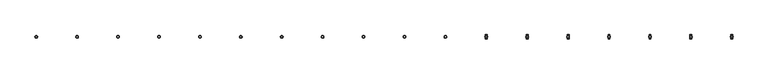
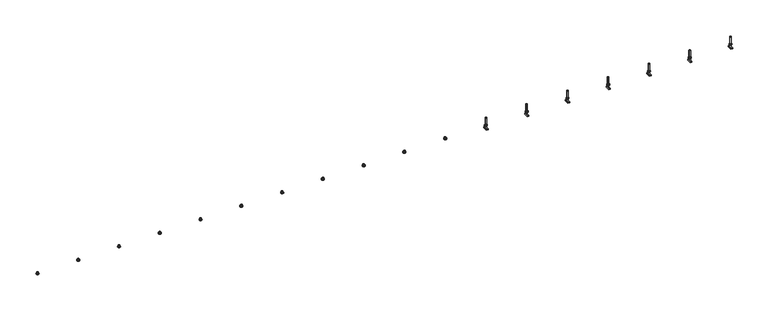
"""IFC4 building model written with IfcOpenShell, lengths in millimetres: fastener geometry, JTA-W JORDAHL® AnchorChannels : JTA-W L=6000 mm."""

from ifc_helpers import new_model, si_unit, point, frame, frame_2d, origin, place, context, project, spatial, polyline, circle_curve, trimmed, segment, composite_curve, outline, extrude, source, transform, mapped, element, save
from ifc_brep_helpers import plane_surface, cylinder_surface, advanced_brep


def fastener_6a5caa7f(model_context):
    return source(origin(), model_context, "Body", "SolidModel", [
        extrude(outline(polyline([(5617.1052632, 9.2376043), (5625.1052632, 4.6188022), (5625.1052632, -4.6188022), (5617.1052632, -9.2376043), (5609.1052632, -4.6188022), (5609.1052632, 4.6188022), (5617.1052632, 9.2376043)]), holes=[composite_curve([segment(trimmed(circle_curve(frame_2d((5617.1052632, 0.0)), 5.0), [point((5612.1052632, 0.0))], [point((5622.1052632, 0.0))], True, "CARTESIAN"), True, "CONTINUOUS"), segment(trimmed(circle_curve(frame_2d((5617.1052632, 0.0)), 5.0), [point((5622.1052632, 0.0))], [point((5612.1052632, 0.0))], True, "CARTESIAN"), True, "CONTINUOUS")], self_intersect=False)]), frame((0.0, 0.0, 17.0), z_axis=(0.0, 0.0, 1.0), x_axis=(1.0, 0.0, 0.0)), (0.0, 0.0, 1.0), 8.4),
        extrude(outline(composite_curve([segment(trimmed(circle_curve(frame_2d((5617.1052632, 0.0)), 10.0), [point((5607.1052632, 0.0))], [point((5627.1052632, 0.0))], False, "CARTESIAN"), True, "CONTINUOUS"), segment(trimmed(circle_curve(frame_2d((5617.1052632, 0.0)), 10.0), [point((5627.1052632, 0.0))], [point((5607.1052632, 0.0))], False, "CARTESIAN"), True, "CONTINUOUS")], self_intersect=False), holes=[composite_curve([segment(trimmed(circle_curve(frame_2d((5617.1052632, 0.0)), 5.25), [point((5611.8552632, 0.0))], [point((5622.3552632, 0.0))], True, "CARTESIAN"), True, "CONTINUOUS"), segment(trimmed(circle_curve(frame_2d((5617.1052632, 0.0)), 5.25), [point((5622.3552632, 0.0))], [point((5611.8552632, 0.0))], True, "CARTESIAN"), True, "CONTINUOUS")], self_intersect=False)]), frame((0.0, 0.0, 15.0), z_axis=(0.0, 0.0, 1.0), x_axis=(1.0, 0.0, 0.0)), (0.0, 0.0, 1.0), 2.0),
        extrude(outline(polyline([(5309.2105263, 9.2376043), (5317.2105263, 4.6188022), (5317.2105263, -4.6188022), (5309.2105263, -9.2376043), (5301.2105263, -4.6188022), (5301.2105263, 4.6188022), (5309.2105263, 9.2376043)]), holes=[composite_curve([segment(trimmed(circle_curve(frame_2d((5309.2105263, 0.0)), 5.0), [point((5304.2105263, 0.0))], [point((5314.2105263, 0.0))], True, "CARTESIAN"), True, "CONTINUOUS"), segment(trimmed(circle_curve(frame_2d((5309.2105263, 0.0)), 5.0), [point((5314.2105263, 0.0))], [point((5304.2105263, 0.0))], True, "CARTESIAN"), True, "CONTINUOUS")], self_intersect=False)]), frame((0.0, 0.0, 17.0), z_axis=(0.0, 0.0, 1.0), x_axis=(1.0, 0.0, 0.0)), (0.0, 0.0, 1.0), 8.4),
        extrude(outline(composite_curve([segment(trimmed(circle_curve(frame_2d((5309.2105263, 0.0)), 10.0), [point((5299.2105263, 0.0))], [point((5319.2105263, 0.0))], False, "CARTESIAN"), True, "CONTINUOUS"), segment(trimmed(circle_curve(frame_2d((5309.2105263, 0.0)), 10.0), [point((5319.2105263, 0.0))], [point((5299.2105263, 0.0))], False, "CARTESIAN"), True, "CONTINUOUS")], self_intersect=False), holes=[composite_curve([segment(trimmed(circle_curve(frame_2d((5309.2105263, 0.0)), 5.25), [point((5303.9605263, 0.0))], [point((5314.4605263, 0.0))], True, "CARTESIAN"), True, "CONTINUOUS"), segment(trimmed(circle_curve(frame_2d((5309.2105263, 0.0)), 5.25), [point((5314.4605263, 0.0))], [point((5303.9605263, 0.0))], True, "CARTESIAN"), True, "CONTINUOUS")], self_intersect=False)]), frame((0.0, 0.0, 15.0), z_axis=(0.0, 0.0, 1.0), x_axis=(1.0, 0.0, 0.0)), (0.0, 0.0, 1.0), 2.0),
        extrude(outline(polyline([(5001.3157895, 9.2376043), (5009.3157895, 4.6188022), (5009.3157895, -4.6188022), (5001.3157895, -9.2376043), (4993.3157895, -4.6188022), (4993.3157895, 4.6188022), (5001.3157895, 9.2376043)]), holes=[composite_curve([segment(trimmed(circle_curve(frame_2d((5001.3157895, 0.0)), 5.0), [point((4996.3157895, 0.0))], [point((5006.3157895, 0.0))], True, "CARTESIAN"), True, "CONTINUOUS"), segment(trimmed(circle_curve(frame_2d((5001.3157895, 0.0)), 5.0), [point((5006.3157895, 0.0))], [point((4996.3157895, 0.0))], True, "CARTESIAN"), True, "CONTINUOUS")], self_intersect=False)]), frame((0.0, 0.0, 17.0), z_axis=(0.0, 0.0, 1.0), x_axis=(1.0, 0.0, 0.0)), (0.0, 0.0, 1.0), 8.4),
        extrude(outline(composite_curve([segment(trimmed(circle_curve(frame_2d((5001.3157895, 0.0)), 10.0), [point((4991.3157895, 0.0))], [point((5011.3157895, 0.0))], False, "CARTESIAN"), True, "CONTINUOUS"), segment(trimmed(circle_curve(frame_2d((5001.3157895, 0.0)), 10.0), [point((5011.3157895, 0.0))], [point((4991.3157895, 0.0))], False, "CARTESIAN"), True, "CONTINUOUS")], self_intersect=False), holes=[composite_curve([segment(trimmed(circle_curve(frame_2d((5001.3157895, 0.0)), 5.25), [point((4996.0657895, 0.0))], [point((5006.5657895, 0.0))], True, "CARTESIAN"), True, "CONTINUOUS"), segment(trimmed(circle_curve(frame_2d((5001.3157895, 0.0)), 5.25), [point((5006.5657895, 0.0))], [point((4996.0657895, 0.0))], True, "CARTESIAN"), True, "CONTINUOUS")], self_intersect=False)]), frame((0.0, 0.0, 15.0), z_axis=(0.0, 0.0, 1.0), x_axis=(1.0, 0.0, 0.0)), (0.0, 0.0, 1.0), 2.0),
        extrude(outline(polyline([(4693.4210526, 9.2376043), (4701.4210526, 4.6188022), (4701.4210526, -4.6188022), (4693.4210526, -9.2376043), (4685.4210526, -4.6188022), (4685.4210526, 4.6188022), (4693.4210526, 9.2376043)]), holes=[composite_curve([segment(trimmed(circle_curve(frame_2d((4693.4210526, 0.0)), 5.0), [point((4688.4210526, 0.0))], [point((4698.4210526, 0.0))], True, "CARTESIAN"), True, "CONTINUOUS"), segment(trimmed(circle_curve(frame_2d((4693.4210526, 0.0)), 5.0), [point((4698.4210526, 0.0))], [point((4688.4210526, 0.0))], True, "CARTESIAN"), True, "CONTINUOUS")], self_intersect=False)]), frame((0.0, 0.0, 17.0), z_axis=(0.0, 0.0, 1.0), x_axis=(1.0, 0.0, 0.0)), (0.0, 0.0, 1.0), 8.4),
        extrude(outline(composite_curve([segment(trimmed(circle_curve(frame_2d((4693.4210526, 0.0)), 10.0), [point((4683.4210526, 0.0))], [point((4703.4210526, 0.0))], False, "CARTESIAN"), True, "CONTINUOUS"), segment(trimmed(circle_curve(frame_2d((4693.4210526, 0.0)), 10.0), [point((4703.4210526, 0.0))], [point((4683.4210526, 0.0))], False, "CARTESIAN"), True, "CONTINUOUS")], self_intersect=False), holes=[composite_curve([segment(trimmed(circle_curve(frame_2d((4693.4210526, 0.0)), 5.25), [point((4688.1710526, 0.0))], [point((4698.6710526, 0.0))], True, "CARTESIAN"), True, "CONTINUOUS"), segment(trimmed(circle_curve(frame_2d((4693.4210526, 0.0)), 5.25), [point((4698.6710526, 0.0))], [point((4688.1710526, 0.0))], True, "CARTESIAN"), True, "CONTINUOUS")], self_intersect=False)]), frame((0.0, 0.0, 15.0), z_axis=(0.0, 0.0, 1.0), x_axis=(1.0, 0.0, 0.0)), (0.0, 0.0, 1.0), 2.0),
        extrude(outline(polyline([(4385.5263158, 9.2376043), (4393.5263158, 4.6188022), (4393.5263158, -4.6188022), (4385.5263158, -9.2376043), (4377.5263158, -4.6188022), (4377.5263158, 4.6188022), (4385.5263158, 9.2376043)]), holes=[composite_curve([segment(trimmed(circle_curve(frame_2d((4385.5263158, 0.0)), 5.0), [point((4380.5263158, 0.0))], [point((4390.5263158, 0.0))], True, "CARTESIAN"), True, "CONTINUOUS"), segment(trimmed(circle_curve(frame_2d((4385.5263158, 0.0)), 5.0), [point((4390.5263158, 0.0))], [point((4380.5263158, 0.0))], True, "CARTESIAN"), True, "CONTINUOUS")], self_intersect=False)]), frame((0.0, 0.0, 17.0), z_axis=(0.0, 0.0, 1.0), x_axis=(1.0, 0.0, 0.0)), (0.0, 0.0, 1.0), 8.4),
        extrude(outline(composite_curve([segment(trimmed(circle_curve(frame_2d((4385.5263158, 0.0)), 10.0), [point((4375.5263158, 0.0))], [point((4395.5263158, 0.0))], False, "CARTESIAN"), True, "CONTINUOUS"), segment(trimmed(circle_curve(frame_2d((4385.5263158, 0.0)), 10.0), [point((4395.5263158, 0.0))], [point((4375.5263158, 0.0))], False, "CARTESIAN"), True, "CONTINUOUS")], self_intersect=False), holes=[composite_curve([segment(trimmed(circle_curve(frame_2d((4385.5263158, 0.0)), 5.25), [point((4380.2763158, 0.0))], [point((4390.7763158, 0.0))], True, "CARTESIAN"), True, "CONTINUOUS"), segment(trimmed(circle_curve(frame_2d((4385.5263158, 0.0)), 5.25), [point((4390.7763158, 0.0))], [point((4380.2763158, 0.0))], True, "CARTESIAN"), True, "CONTINUOUS")], self_intersect=False)]), frame((0.0, 0.0, 15.0), z_axis=(0.0, 0.0, 1.0), x_axis=(1.0, 0.0, 0.0)), (0.0, 0.0, 1.0), 2.0),
        extrude(outline(polyline([(4077.6315789, 9.2376043), (4085.6315789, 4.6188022), (4085.6315789, -4.6188022), (4077.6315789, -9.2376043), (4069.6315789, -4.6188022), (4069.6315789, 4.6188022), (4077.6315789, 9.2376043)]), holes=[composite_curve([segment(trimmed(circle_curve(frame_2d((4077.6315789, 0.0)), 5.0), [point((4072.6315789, 0.0))], [point((4082.6315789, 0.0))], True, "CARTESIAN"), True, "CONTINUOUS"), segment(trimmed(circle_curve(frame_2d((4077.6315789, 0.0)), 5.0), [point((4082.6315789, 0.0))], [point((4072.6315789, 0.0))], True, "CARTESIAN"), True, "CONTINUOUS")], self_intersect=False)]), frame((0.0, 0.0, 17.0), z_axis=(0.0, 0.0, 1.0), x_axis=(1.0, 0.0, 0.0)), (0.0, 0.0, 1.0), 8.4),
        extrude(outline(composite_curve([segment(trimmed(circle_curve(frame_2d((4077.6315789, 0.0)), 10.0), [point((4067.6315789, 0.0))], [point((4087.6315789, 0.0))], False, "CARTESIAN"), True, "CONTINUOUS"), segment(trimmed(circle_curve(frame_2d((4077.6315789, 0.0)), 10.0), [point((4087.6315789, 0.0))], [point((4067.6315789, 0.0))], False, "CARTESIAN"), True, "CONTINUOUS")], self_intersect=False), holes=[composite_curve([segment(trimmed(circle_curve(frame_2d((4077.6315789, 0.0)), 5.25), [point((4072.3815789, 0.0))], [point((4082.8815789, 0.0))], True, "CARTESIAN"), True, "CONTINUOUS"), segment(trimmed(circle_curve(frame_2d((4077.6315789, 0.0)), 5.25), [point((4082.8815789, 0.0))], [point((4072.3815789, 0.0))], True, "CARTESIAN"), True, "CONTINUOUS")], self_intersect=False)]), frame((0.0, 0.0, 15.0), z_axis=(0.0, 0.0, 1.0), x_axis=(1.0, 0.0, 0.0)), (0.0, 0.0, 1.0), 2.0),
        extrude(outline(polyline([(3769.7368421, 9.2376043), (3777.7368421, 4.6188022), (3777.7368421, -4.6188022), (3769.7368421, -9.2376043), (3761.7368421, -4.6188022), (3761.7368421, 4.6188022), (3769.7368421, 9.2376043)]), holes=[composite_curve([segment(trimmed(circle_curve(frame_2d((3769.7368421, 0.0)), 5.0), [point((3764.7368421, 0.0))], [point((3774.7368421, 0.0))], True, "CARTESIAN"), True, "CONTINUOUS"), segment(trimmed(circle_curve(frame_2d((3769.7368421, 0.0)), 5.0), [point((3774.7368421, 0.0))], [point((3764.7368421, 0.0))], True, "CARTESIAN"), True, "CONTINUOUS")], self_intersect=False)]), frame((0.0, 0.0, 17.0), z_axis=(0.0, 0.0, 1.0), x_axis=(1.0, 0.0, 0.0)), (0.0, 0.0, 1.0), 8.4),
        extrude(outline(composite_curve([segment(trimmed(circle_curve(frame_2d((3769.7368421, 0.0)), 10.0), [point((3759.7368421, 0.0))], [point((3779.7368421, 0.0))], False, "CARTESIAN"), True, "CONTINUOUS"), segment(trimmed(circle_curve(frame_2d((3769.7368421, 0.0)), 10.0), [point((3779.7368421, 0.0))], [point((3759.7368421, 0.0))], False, "CARTESIAN"), True, "CONTINUOUS")], self_intersect=False), holes=[composite_curve([segment(trimmed(circle_curve(frame_2d((3769.7368421, 0.0)), 5.25), [point((3764.4868421, 0.0))], [point((3774.9868421, 0.0))], True, "CARTESIAN"), True, "CONTINUOUS"), segment(trimmed(circle_curve(frame_2d((3769.7368421, 0.0)), 5.25), [point((3774.9868421, 0.0))], [point((3764.4868421, 0.0))], True, "CARTESIAN"), True, "CONTINUOUS")], self_intersect=False)]), frame((0.0, 0.0, 15.0), z_axis=(0.0, 0.0, 1.0), x_axis=(1.0, 0.0, 0.0)), (0.0, 0.0, 1.0), 2.0),
        extrude(outline(polyline([(3461.8421053, 9.2376043), (3469.8421053, 4.6188022), (3469.8421053, -4.6188022), (3461.8421053, -9.2376043), (3453.8421053, -4.6188022), (3453.8421053, 4.6188022), (3461.8421053, 9.2376043)]), holes=[composite_curve([segment(trimmed(circle_curve(frame_2d((3461.8421053, 0.0)), 5.0), [point((3456.8421053, 0.0))], [point((3466.8421053, 0.0))], True, "CARTESIAN"), True, "CONTINUOUS"), segment(trimmed(circle_curve(frame_2d((3461.8421053, 0.0)), 5.0), [point((3466.8421053, 0.0))], [point((3456.8421053, 0.0))], True, "CARTESIAN"), True, "CONTINUOUS")], self_intersect=False)]), frame((0.0, 0.0, 17.0), z_axis=(0.0, 0.0, 1.0), x_axis=(1.0, 0.0, 0.0)), (0.0, 0.0, 1.0), 8.4),
        extrude(outline(composite_curve([segment(trimmed(circle_curve(frame_2d((3461.8421053, 0.0)), 10.0), [point((3451.8421053, 0.0))], [point((3471.8421053, 0.0))], False, "CARTESIAN"), True, "CONTINUOUS"), segment(trimmed(circle_curve(frame_2d((3461.8421053, 0.0)), 10.0), [point((3471.8421053, 0.0))], [point((3451.8421053, 0.0))], False, "CARTESIAN"), True, "CONTINUOUS")], self_intersect=False), holes=[composite_curve([segment(trimmed(circle_curve(frame_2d((3461.8421053, 0.0)), 5.25), [point((3456.5921053, 0.0))], [point((3467.0921053, 0.0))], True, "CARTESIAN"), True, "CONTINUOUS"), segment(trimmed(circle_curve(frame_2d((3461.8421053, 0.0)), 5.25), [point((3467.0921053, 0.0))], [point((3456.5921053, 0.0))], True, "CARTESIAN"), True, "CONTINUOUS")], self_intersect=False)]), frame((0.0, 0.0, 15.0), z_axis=(0.0, 0.0, 1.0), x_axis=(1.0, 0.0, 0.0)), (0.0, 0.0, 1.0), 2.0),
        extrude(outline(polyline([(3153.9473684, 9.2376043), (3161.9473684, 4.6188022), (3161.9473684, -4.6188022), (3153.9473684, -9.2376043), (3145.9473684, -4.6188022), (3145.9473684, 4.6188022), (3153.9473684, 9.2376043)]), holes=[composite_curve([segment(trimmed(circle_curve(frame_2d((3153.9473684, 0.0)), 5.0), [point((3148.9473684, 0.0))], [point((3158.9473684, 0.0))], True, "CARTESIAN"), True, "CONTINUOUS"), segment(trimmed(circle_curve(frame_2d((3153.9473684, 0.0)), 5.0), [point((3158.9473684, 0.0))], [point((3148.9473684, 0.0))], True, "CARTESIAN"), True, "CONTINUOUS")], self_intersect=False)]), frame((0.0, 0.0, 17.0), z_axis=(0.0, 0.0, 1.0), x_axis=(1.0, 0.0, 0.0)), (0.0, 0.0, 1.0), 8.4),
        extrude(outline(composite_curve([segment(trimmed(circle_curve(frame_2d((3153.9473684, 0.0)), 10.0), [point((3143.9473684, 0.0))], [point((3163.9473684, 0.0))], False, "CARTESIAN"), True, "CONTINUOUS"), segment(trimmed(circle_curve(frame_2d((3153.9473684, 0.0)), 10.0), [point((3163.9473684, 0.0))], [point((3143.9473684, 0.0))], False, "CARTESIAN"), True, "CONTINUOUS")], self_intersect=False), holes=[composite_curve([segment(trimmed(circle_curve(frame_2d((3153.9473684, 0.0)), 5.25), [point((3148.6973684, 0.0))], [point((3159.1973684, 0.0))], True, "CARTESIAN"), True, "CONTINUOUS"), segment(trimmed(circle_curve(frame_2d((3153.9473684, 0.0)), 5.25), [point((3159.1973684, 0.0))], [point((3148.6973684, 0.0))], True, "CARTESIAN"), True, "CONTINUOUS")], self_intersect=False)]), frame((0.0, 0.0, 15.0), z_axis=(0.0, 0.0, 1.0), x_axis=(1.0, 0.0, 0.0)), (0.0, 0.0, 1.0), 2.0),
        extrude(outline(polyline([(2846.0526316, 9.2376043), (2854.0526316, 4.6188022), (2854.0526316, -4.6188022), (2846.0526316, -9.2376043), (2838.0526316, -4.6188022), (2838.0526316, 4.6188022), (2846.0526316, 9.2376043)]), holes=[composite_curve([segment(trimmed(circle_curve(frame_2d((2846.0526316, 0.0)), 5.0), [point((2841.0526316, 0.0))], [point((2851.0526316, 0.0))], True, "CARTESIAN"), True, "CONTINUOUS"), segment(trimmed(circle_curve(frame_2d((2846.0526316, 0.0)), 5.0), [point((2851.0526316, 0.0))], [point((2841.0526316, 0.0))], True, "CARTESIAN"), True, "CONTINUOUS")], self_intersect=False)]), frame((0.0, 0.0, 17.0), z_axis=(0.0, 0.0, 1.0), x_axis=(1.0, 0.0, 0.0)), (0.0, 0.0, 1.0), 8.4),
        extrude(outline(composite_curve([segment(trimmed(circle_curve(frame_2d((2846.0526316, 0.0)), 10.0), [point((2836.0526316, 0.0))], [point((2856.0526316, 0.0))], False, "CARTESIAN"), True, "CONTINUOUS"), segment(trimmed(circle_curve(frame_2d((2846.0526316, 0.0)), 10.0), [point((2856.0526316, 0.0))], [point((2836.0526316, 0.0))], False, "CARTESIAN"), True, "CONTINUOUS")], self_intersect=False), holes=[composite_curve([segment(trimmed(circle_curve(frame_2d((2846.0526316, 0.0)), 5.25), [point((2840.8026316, 0.0))], [point((2851.3026316, 0.0))], True, "CARTESIAN"), True, "CONTINUOUS"), segment(trimmed(circle_curve(frame_2d((2846.0526316, 0.0)), 5.25), [point((2851.3026316, 0.0))], [point((2840.8026316, 0.0))], True, "CARTESIAN"), True, "CONTINUOUS")], self_intersect=False)]), frame((0.0, 0.0, 15.0), z_axis=(0.0, 0.0, 1.0), x_axis=(1.0, 0.0, 0.0)), (0.0, 0.0, 1.0), 2.0),
        extrude(outline(polyline([(2538.1578947, 9.2376043), (2546.1578947, 4.6188022), (2546.1578947, -4.6188022), (2538.1578947, -9.2376043), (2530.1578947, -4.6188022), (2530.1578947, 4.6188022), (2538.1578947, 9.2376043)]), holes=[composite_curve([segment(trimmed(circle_curve(frame_2d((2538.1578947, 0.0)), 5.0), [point((2533.1578947, 0.0))], [point((2543.1578947, 0.0))], True, "CARTESIAN"), True, "CONTINUOUS"), segment(trimmed(circle_curve(frame_2d((2538.1578947, 0.0)), 5.0), [point((2543.1578947, 0.0))], [point((2533.1578947, 0.0))], True, "CARTESIAN"), True, "CONTINUOUS")], self_intersect=False)]), frame((0.0, 0.0, 17.0), z_axis=(0.0, 0.0, 1.0), x_axis=(1.0, 0.0, 0.0)), (0.0, 0.0, 1.0), 8.4),
        extrude(outline(composite_curve([segment(trimmed(circle_curve(frame_2d((2538.1578947, 0.0)), 10.0), [point((2528.1578947, 0.0))], [point((2548.1578947, 0.0))], False, "CARTESIAN"), True, "CONTINUOUS"), segment(trimmed(circle_curve(frame_2d((2538.1578947, 0.0)), 10.0), [point((2548.1578947, 0.0))], [point((2528.1578947, 0.0))], False, "CARTESIAN"), True, "CONTINUOUS")], self_intersect=False), holes=[composite_curve([segment(trimmed(circle_curve(frame_2d((2538.1578947, 0.0)), 5.25), [point((2532.9078947, 0.0))], [point((2543.4078947, 0.0))], True, "CARTESIAN"), True, "CONTINUOUS"), segment(trimmed(circle_curve(frame_2d((2538.1578947, 0.0)), 5.25), [point((2543.4078947, 0.0))], [point((2532.9078947, 0.0))], True, "CARTESIAN"), True, "CONTINUOUS")], self_intersect=False)]), frame((0.0, 0.0, 15.0), z_axis=(0.0, 0.0, 1.0), x_axis=(1.0, 0.0, 0.0)), (0.0, 0.0, 1.0), 2.0),
        extrude(outline(polyline([(2230.2631579, 9.2376043), (2238.2631579, 4.6188022), (2238.2631579, -4.6188022), (2230.2631579, -9.2376043), (2222.2631579, -4.6188022), (2222.2631579, 4.6188022), (2230.2631579, 9.2376043)]), holes=[composite_curve([segment(trimmed(circle_curve(frame_2d((2230.2631579, 0.0)), 5.0), [point((2225.2631579, 0.0))], [point((2235.2631579, 0.0))], True, "CARTESIAN"), True, "CONTINUOUS"), segment(trimmed(circle_curve(frame_2d((2230.2631579, 0.0)), 5.0), [point((2235.2631579, 0.0))], [point((2225.2631579, 0.0))], True, "CARTESIAN"), True, "CONTINUOUS")], self_intersect=False)]), frame((0.0, 0.0, 17.0), z_axis=(0.0, 0.0, 1.0), x_axis=(1.0, 0.0, 0.0)), (0.0, 0.0, 1.0), 8.4),
        extrude(outline(composite_curve([segment(trimmed(circle_curve(frame_2d((2230.2631579, 0.0)), 10.0), [point((2220.2631579, 0.0))], [point((2240.2631579, 0.0))], False, "CARTESIAN"), True, "CONTINUOUS"), segment(trimmed(circle_curve(frame_2d((2230.2631579, 0.0)), 10.0), [point((2240.2631579, 0.0))], [point((2220.2631579, 0.0))], False, "CARTESIAN"), True, "CONTINUOUS")], self_intersect=False), holes=[composite_curve([segment(trimmed(circle_curve(frame_2d((2230.2631579, 0.0)), 5.25), [point((2225.0131579, 0.0))], [point((2235.5131579, 0.0))], True, "CARTESIAN"), True, "CONTINUOUS"), segment(trimmed(circle_curve(frame_2d((2230.2631579, 0.0)), 5.25), [point((2235.5131579, 0.0))], [point((2225.0131579, 0.0))], True, "CARTESIAN"), True, "CONTINUOUS")], self_intersect=False)]), frame((0.0, 0.0, 15.0), z_axis=(0.0, 0.0, 1.0), x_axis=(1.0, 0.0, 0.0)), (0.0, 0.0, 1.0), 2.0),
        extrude(outline(polyline([(1922.3684211, 9.2376043), (1930.3684211, 4.6188022), (1930.3684211, -4.6188022), (1922.3684211, -9.2376043), (1914.3684211, -4.6188022), (1914.3684211, 4.6188022), (1922.3684211, 9.2376043)]), holes=[composite_curve([segment(trimmed(circle_curve(frame_2d((1922.3684211, 0.0)), 5.0), [point((1917.3684211, 0.0))], [point((1927.3684211, 0.0))], True, "CARTESIAN"), True, "CONTINUOUS"), segment(trimmed(circle_curve(frame_2d((1922.3684211, 0.0)), 5.0), [point((1927.3684211, 0.0))], [point((1917.3684211, 0.0))], True, "CARTESIAN"), True, "CONTINUOUS")], self_intersect=False)]), frame((0.0, 0.0, 17.0), z_axis=(0.0, 0.0, 1.0), x_axis=(1.0, 0.0, 0.0)), (0.0, 0.0, 1.0), 8.4),
        extrude(outline(composite_curve([segment(trimmed(circle_curve(frame_2d((1922.3684211, 0.0)), 10.0), [point((1912.3684211, 0.0))], [point((1932.3684211, 0.0))], False, "CARTESIAN"), True, "CONTINUOUS"), segment(trimmed(circle_curve(frame_2d((1922.3684211, 0.0)), 10.0), [point((1932.3684211, 0.0))], [point((1912.3684211, 0.0))], False, "CARTESIAN"), True, "CONTINUOUS")], self_intersect=False), holes=[composite_curve([segment(trimmed(circle_curve(frame_2d((1922.3684211, 0.0)), 5.25), [point((1917.1184211, 0.0))], [point((1927.6184211, 0.0))], True, "CARTESIAN"), True, "CONTINUOUS"), segment(trimmed(circle_curve(frame_2d((1922.3684211, 0.0)), 5.25), [point((1927.6184211, 0.0))], [point((1917.1184211, 0.0))], True, "CARTESIAN"), True, "CONTINUOUS")], self_intersect=False)]), frame((0.0, 0.0, 15.0), z_axis=(0.0, 0.0, 1.0), x_axis=(1.0, 0.0, 0.0)), (0.0, 0.0, 1.0), 2.0),
        extrude(outline(polyline([(1614.4736842, 9.2376043), (1622.4736842, 4.6188022), (1622.4736842, -4.6188022), (1614.4736842, -9.2376043), (1606.4736842, -4.6188022), (1606.4736842, 4.6188022), (1614.4736842, 9.2376043)]), holes=[composite_curve([segment(trimmed(circle_curve(frame_2d((1614.4736842, 0.0)), 5.0), [point((1609.4736842, 0.0))], [point((1619.4736842, 0.0))], True, "CARTESIAN"), True, "CONTINUOUS"), segment(trimmed(circle_curve(frame_2d((1614.4736842, 0.0)), 5.0), [point((1619.4736842, 0.0))], [point((1609.4736842, 0.0))], True, "CARTESIAN"), True, "CONTINUOUS")], self_intersect=False)]), frame((0.0, 0.0, 17.0), z_axis=(0.0, 0.0, 1.0), x_axis=(1.0, 0.0, 0.0)), (0.0, 0.0, 1.0), 8.4),
        extrude(outline(composite_curve([segment(trimmed(circle_curve(frame_2d((1614.4736842, 0.0)), 10.0), [point((1604.4736842, 0.0))], [point((1624.4736842, 0.0))], False, "CARTESIAN"), True, "CONTINUOUS"), segment(trimmed(circle_curve(frame_2d((1614.4736842, 0.0)), 10.0), [point((1624.4736842, 0.0))], [point((1604.4736842, 0.0))], False, "CARTESIAN"), True, "CONTINUOUS")], self_intersect=False), holes=[composite_curve([segment(trimmed(circle_curve(frame_2d((1614.4736842, 0.0)), 5.25), [point((1609.2236842, 0.0))], [point((1619.7236842, 0.0))], True, "CARTESIAN"), True, "CONTINUOUS"), segment(trimmed(circle_curve(frame_2d((1614.4736842, 0.0)), 5.25), [point((1619.7236842, 0.0))], [point((1609.2236842, 0.0))], True, "CARTESIAN"), True, "CONTINUOUS")], self_intersect=False)]), frame((0.0, 0.0, 15.0), z_axis=(0.0, 0.0, 1.0), x_axis=(1.0, 0.0, 0.0)), (0.0, 0.0, 1.0), 2.0),
        extrude(outline(polyline([(1306.5789474, 9.2376043), (1314.5789474, 4.6188022), (1314.5789474, -4.6188022), (1306.5789474, -9.2376043), (1298.5789474, -4.6188022), (1298.5789474, 4.6188022), (1306.5789474, 9.2376043)]), holes=[composite_curve([segment(trimmed(circle_curve(frame_2d((1306.5789474, 0.0)), 5.0), [point((1301.5789474, 0.0))], [point((1311.5789474, 0.0))], True, "CARTESIAN"), True, "CONTINUOUS"), segment(trimmed(circle_curve(frame_2d((1306.5789474, 0.0)), 5.0), [point((1311.5789474, 0.0))], [point((1301.5789474, 0.0))], True, "CARTESIAN"), True, "CONTINUOUS")], self_intersect=False)]), frame((0.0, 0.0, 17.0), z_axis=(0.0, 0.0, 1.0), x_axis=(1.0, 0.0, 0.0)), (0.0, 0.0, 1.0), 8.4),
        extrude(outline(composite_curve([segment(trimmed(circle_curve(frame_2d((1306.5789474, 0.0)), 10.0), [point((1296.5789474, 0.0))], [point((1316.5789474, 0.0))], False, "CARTESIAN"), True, "CONTINUOUS"), segment(trimmed(circle_curve(frame_2d((1306.5789474, 0.0)), 10.0), [point((1316.5789474, 0.0))], [point((1296.5789474, 0.0))], False, "CARTESIAN"), True, "CONTINUOUS")], self_intersect=False), holes=[composite_curve([segment(trimmed(circle_curve(frame_2d((1306.5789474, 0.0)), 5.25), [point((1301.3289474, 0.0))], [point((1311.8289474, 0.0))], True, "CARTESIAN"), True, "CONTINUOUS"), segment(trimmed(circle_curve(frame_2d((1306.5789474, 0.0)), 5.25), [point((1311.8289474, 0.0))], [point((1301.3289474, 0.0))], True, "CARTESIAN"), True, "CONTINUOUS")], self_intersect=False)]), frame((0.0, 0.0, 15.0), z_axis=(0.0, 0.0, 1.0), x_axis=(1.0, 0.0, 0.0)), (0.0, 0.0, 1.0), 2.0),
        extrude(outline(polyline([(998.6842105, 9.2376043), (1006.6842105, 4.6188022), (1006.6842105, -4.6188022), (998.6842105, -9.2376043), (990.6842105, -4.6188022), (990.6842105, 4.6188022), (998.6842105, 9.2376043)]), holes=[composite_curve([segment(trimmed(circle_curve(frame_2d((998.6842105, 0.0)), 5.0), [point((993.6842105, 0.0))], [point((1003.6842105, 0.0))], True, "CARTESIAN"), True, "CONTINUOUS"), segment(trimmed(circle_curve(frame_2d((998.6842105, 0.0)), 5.0), [point((1003.6842105, 0.0))], [point((993.6842105, 0.0))], True, "CARTESIAN"), True, "CONTINUOUS")], self_intersect=False)]), frame((0.0, 0.0, 17.0), z_axis=(0.0, 0.0, 1.0), x_axis=(1.0, 0.0, 0.0)), (0.0, 0.0, 1.0), 8.4),
        extrude(outline(composite_curve([segment(trimmed(circle_curve(frame_2d((998.6842105, 0.0)), 10.0), [point((988.6842105, 0.0))], [point((1008.6842105, 0.0))], False, "CARTESIAN"), True, "CONTINUOUS"), segment(trimmed(circle_curve(frame_2d((998.6842105, 0.0)), 10.0), [point((1008.6842105, 0.0))], [point((988.6842105, 0.0))], False, "CARTESIAN"), True, "CONTINUOUS")], self_intersect=False), holes=[composite_curve([segment(trimmed(circle_curve(frame_2d((998.6842105, 0.0)), 5.25), [point((993.4342105, 0.0))], [point((1003.9342105, 0.0))], True, "CARTESIAN"), True, "CONTINUOUS"), segment(trimmed(circle_curve(frame_2d((998.6842105, 0.0)), 5.25), [point((1003.9342105, 0.0))], [point((993.4342105, 0.0))], True, "CARTESIAN"), True, "CONTINUOUS")], self_intersect=False)]), frame((0.0, 0.0, 15.0), z_axis=(0.0, 0.0, 1.0), x_axis=(1.0, 0.0, 0.0)), (0.0, 0.0, 1.0), 2.0),
        extrude(outline(polyline([(690.7894737, 9.2376043), (698.7894737, 4.6188022), (698.7894737, -4.6188022), (690.7894737, -9.2376043), (682.7894737, -4.6188022), (682.7894737, 4.6188022), (690.7894737, 9.2376043)]), holes=[composite_curve([segment(trimmed(circle_curve(frame_2d((690.7894737, 0.0)), 5.0), [point((685.7894737, 0.0))], [point((695.7894737, 0.0))], True, "CARTESIAN"), True, "CONTINUOUS"), segment(trimmed(circle_curve(frame_2d((690.7894737, 0.0)), 5.0), [point((695.7894737, 0.0))], [point((685.7894737, 0.0))], True, "CARTESIAN"), True, "CONTINUOUS")], self_intersect=False)]), frame((0.0, 0.0, 17.0), z_axis=(0.0, 0.0, 1.0), x_axis=(1.0, 0.0, 0.0)), (0.0, 0.0, 1.0), 8.4),
        extrude(outline(composite_curve([segment(trimmed(circle_curve(frame_2d((690.7894737, 0.0)), 10.0), [point((680.7894737, 0.0))], [point((700.7894737, 0.0))], False, "CARTESIAN"), True, "CONTINUOUS"), segment(trimmed(circle_curve(frame_2d((690.7894737, 0.0)), 10.0), [point((700.7894737, 0.0))], [point((680.7894737, 0.0))], False, "CARTESIAN"), True, "CONTINUOUS")], self_intersect=False), holes=[composite_curve([segment(trimmed(circle_curve(frame_2d((690.7894737, 0.0)), 5.25), [point((685.5394737, 0.0))], [point((696.0394737, 0.0))], True, "CARTESIAN"), True, "CONTINUOUS"), segment(trimmed(circle_curve(frame_2d((690.7894737, 0.0)), 5.25), [point((696.0394737, 0.0))], [point((685.5394737, 0.0))], True, "CARTESIAN"), True, "CONTINUOUS")], self_intersect=False)]), frame((0.0, 0.0, 15.0), z_axis=(0.0, 0.0, 1.0), x_axis=(1.0, 0.0, 0.0)), (0.0, 0.0, 1.0), 2.0),
        extrude(outline(polyline([(382.8947368, 9.2376043), (390.8947368, 4.6188022), (390.8947368, -4.6188022), (382.8947368, -9.2376043), (374.8947368, -4.6188022), (374.8947368, 4.6188022), (382.8947368, 9.2376043)]), holes=[composite_curve([segment(trimmed(circle_curve(frame_2d((382.8947368, 0.0)), 5.0), [point((377.8947368, 0.0))], [point((387.8947368, 0.0))], True, "CARTESIAN"), True, "CONTINUOUS"), segment(trimmed(circle_curve(frame_2d((382.8947368, 0.0)), 5.0), [point((387.8947368, 0.0))], [point((377.8947368, 0.0))], True, "CARTESIAN"), True, "CONTINUOUS")], self_intersect=False)]), frame((0.0, 0.0, 17.0), z_axis=(0.0, 0.0, 1.0), x_axis=(1.0, 0.0, 0.0)), (0.0, 0.0, 1.0), 8.4),
        extrude(outline(composite_curve([segment(trimmed(circle_curve(frame_2d((382.8947368, 0.0)), 10.0), [point((372.8947368, 0.0))], [point((392.8947368, 0.0))], False, "CARTESIAN"), True, "CONTINUOUS"), segment(trimmed(circle_curve(frame_2d((382.8947368, 0.0)), 10.0), [point((392.8947368, 0.0))], [point((372.8947368, 0.0))], False, "CARTESIAN"), True, "CONTINUOUS")], self_intersect=False), holes=[composite_curve([segment(trimmed(circle_curve(frame_2d((382.8947368, 0.0)), 5.25), [point((377.6447368, 0.0))], [point((388.1447368, 0.0))], True, "CARTESIAN"), True, "CONTINUOUS"), segment(trimmed(circle_curve(frame_2d((382.8947368, 0.0)), 5.25), [point((388.1447368, 0.0))], [point((377.6447368, 0.0))], True, "CARTESIAN"), True, "CONTINUOUS")], self_intersect=False)]), frame((0.0, 0.0, 15.0), z_axis=(0.0, 0.0, 1.0), x_axis=(1.0, 0.0, 0.0)), (0.0, 0.0, 1.0), 2.0),
        advanced_brep(
        [(5624.1052632, 16.25, -3.0), (5624.1052632, -16.25, -3.0), (5624.1052632, -16.25, -11.0), (5624.1052632, 16.25, -11.0), (5610.1052632, 16.25, -3.0), (5610.1052632, 16.25, -11.0), (5610.1052632, -16.25, -11.0), (5610.1052632, -16.25, -3.0), (5622.1052632, 0.0, -3.0), (5612.1052632, 0.0, -3.0), (5612.1052632, 0.0, 77.0), (5622.1052632, 0.0, 77.0)],
        [
            (0, 1),
            (1, 2),
            (2, 3),
            (3, 0),
            (4, 5),
            (5, 6),
            (6, 7),
            (7, 4),
            (0, 4),
            (7, 1),
            (8, 9, circle_curve(frame((5617.1052632, 0.0, -3.0), z_axis=(0.0, 0.0, -1.0), x_axis=(1.0, 0.0, 0.0)), 5.0)),
            (9, 8, circle_curve(frame((5617.1052632, 0.0, -3.0), z_axis=(0.0, 0.0, -1.0), x_axis=(1.0, 0.0, 0.0)), 5.0)),
            (6, 2),
            (5, 3),
            (10, 11, circle_curve(frame((5617.1052632, 0.0, 77.0), z_axis=(0.0, 0.0, 1.0), x_axis=(1.0, 0.0, 0.0)), 5.0)),
            (11, 10, circle_curve(frame((5617.1052632, 0.0, 77.0), z_axis=(0.0, 0.0, 1.0), x_axis=(1.0, 0.0, 0.0)), 5.0)),
            (10, 9),
            (8, 11),
        ],
        [
            plane_surface(frame((5624.1052632, -16.25, -3.0), z_axis=(1.0, 0.0, 0.0), x_axis=(0.0, -1.0, 0.0))),
            plane_surface(frame((5610.1052632, -16.25, -3.0), z_axis=(-1.0, 0.0, 0.0), x_axis=(0.0, 1.0, 0.0))),
            plane_surface(frame((5624.1052632, 16.25, -3.0), z_axis=(0.0, 0.0, 1.0), x_axis=(-1.0, 0.0, 0.0))),
            plane_surface(frame((5624.1052632, -16.25, -3.0), z_axis=(0.0, -1.0, 0.0), x_axis=(-1.0, 0.0, 0.0))),
            plane_surface(frame((5624.1052632, -16.25, -11.0), z_axis=(0.0, 0.0, -1.0), x_axis=(-1.0, 0.0, 0.0))),
            plane_surface(frame((5624.1052632, 16.25, -11.0), z_axis=(0.0, 1.0, 0.0), x_axis=(-1.0, 0.0, 0.0))),
            plane_surface(frame((5622.1052632, 0.0, 77.0), z_axis=(0.0, 0.0, 1.0), x_axis=(0.0, 1.0, 0.0))),
            cylinder_surface(frame((5617.1052632, 0.0, -3.0), z_axis=(0.0, 0.0, 1.0), x_axis=(1.0, 0.0, 0.0)), 5.0),
        ],
        [
            (0, [[1, 2, 3, 4]]),
            (1, [[5, 6, 7, 8]]),
            (2, [[-1, 9, -8, 10], [11, 12]]),
            (3, [[-2, -10, -7, 13]]),
            (4, [[-3, -13, -6, 14]]),
            (5, [[-4, -14, -5, -9]]),
            (6, [[15, 16]]),
            (7, [[-15, 17, -11, 18]]),
            (7, [[-16, -18, -12, -17]]),
        ],
    ),
        advanced_brep(
        [(5316.2105263, 16.25, -3.0), (5316.2105263, -16.25, -3.0), (5316.2105263, -16.25, -11.0), (5316.2105263, 16.25, -11.0), (5302.2105263, 16.25, -3.0), (5302.2105263, 16.25, -11.0), (5302.2105263, -16.25, -11.0), (5302.2105263, -16.25, -3.0), (5314.2105263, 0.0, -3.0), (5304.2105263, 0.0, -3.0), (5304.2105263, 0.0, 77.0), (5314.2105263, 0.0, 77.0)],
        [
            (0, 1),
            (1, 2),
            (2, 3),
            (3, 0),
            (4, 5),
            (5, 6),
            (6, 7),
            (7, 4),
            (0, 4),
            (7, 1),
            (8, 9, circle_curve(frame((5309.2105263, 0.0, -3.0), z_axis=(0.0, 0.0, -1.0), x_axis=(1.0, 0.0, 0.0)), 5.0)),
            (9, 8, circle_curve(frame((5309.2105263, 0.0, -3.0), z_axis=(0.0, 0.0, -1.0), x_axis=(1.0, 0.0, 0.0)), 5.0)),
            (6, 2),
            (5, 3),
            (10, 11, circle_curve(frame((5309.2105263, 0.0, 77.0), z_axis=(0.0, 0.0, 1.0), x_axis=(1.0, 0.0, 0.0)), 5.0)),
            (11, 10, circle_curve(frame((5309.2105263, 0.0, 77.0), z_axis=(0.0, 0.0, 1.0), x_axis=(1.0, 0.0, 0.0)), 5.0)),
            (10, 9),
            (8, 11),
        ],
        [
            plane_surface(frame((5316.2105263, -16.25, -3.0), z_axis=(1.0, 0.0, 0.0), x_axis=(0.0, -1.0, 0.0))),
            plane_surface(frame((5302.2105263, -16.25, -3.0), z_axis=(-1.0, 0.0, 0.0), x_axis=(0.0, 1.0, 0.0))),
            plane_surface(frame((5316.2105263, 16.25, -3.0), z_axis=(0.0, 0.0, 1.0), x_axis=(-1.0, 0.0, 0.0))),
            plane_surface(frame((5316.2105263, -16.25, -3.0), z_axis=(0.0, -1.0, 0.0), x_axis=(-1.0, 0.0, 0.0))),
            plane_surface(frame((5316.2105263, -16.25, -11.0), z_axis=(0.0, 0.0, -1.0), x_axis=(-1.0, 0.0, 0.0))),
            plane_surface(frame((5316.2105263, 16.25, -11.0), z_axis=(0.0, 1.0, 0.0), x_axis=(-1.0, 0.0, 0.0))),
            plane_surface(frame((5314.2105263, 0.0, 77.0), z_axis=(0.0, 0.0, 1.0), x_axis=(0.0, 1.0, 0.0))),
            cylinder_surface(frame((5309.2105263, 0.0, -3.0), z_axis=(0.0, 0.0, 1.0), x_axis=(1.0, 0.0, 0.0)), 5.0),
        ],
        [
            (0, [[1, 2, 3, 4]]),
            (1, [[5, 6, 7, 8]]),
            (2, [[-1, 9, -8, 10], [11, 12]]),
            (3, [[-2, -10, -7, 13]]),
            (4, [[-3, -13, -6, 14]]),
            (5, [[-4, -14, -5, -9]]),
            (6, [[15, 16]]),
            (7, [[-15, 17, -11, 18]]),
            (7, [[-16, -18, -12, -17]]),
        ],
    ),
        advanced_brep(
        [(5008.3157895, 16.25, -3.0), (5008.3157895, -16.25, -3.0), (5008.3157895, -16.25, -11.0), (5008.3157895, 16.25, -11.0), (4994.3157895, 16.25, -3.0), (4994.3157895, 16.25, -11.0), (4994.3157895, -16.25, -11.0), (4994.3157895, -16.25, -3.0), (5006.3157895, 0.0, -3.0), (4996.3157895, 0.0, -3.0), (4996.3157895, 0.0, 77.0), (5006.3157895, 0.0, 77.0)],
        [
            (0, 1),
            (1, 2),
            (2, 3),
            (3, 0),
            (4, 5),
            (5, 6),
            (6, 7),
            (7, 4),
            (0, 4),
            (7, 1),
            (8, 9, circle_curve(frame((5001.3157895, 0.0, -3.0), z_axis=(0.0, 0.0, -1.0), x_axis=(1.0, 0.0, 0.0)), 5.0)),
            (9, 8, circle_curve(frame((5001.3157895, 0.0, -3.0), z_axis=(0.0, 0.0, -1.0), x_axis=(1.0, 0.0, 0.0)), 5.0)),
            (6, 2),
            (5, 3),
            (10, 11, circle_curve(frame((5001.3157895, 0.0, 77.0), z_axis=(0.0, 0.0, 1.0), x_axis=(1.0, 0.0, 0.0)), 5.0)),
            (11, 10, circle_curve(frame((5001.3157895, 0.0, 77.0), z_axis=(0.0, 0.0, 1.0), x_axis=(1.0, 0.0, 0.0)), 5.0)),
            (10, 9),
            (8, 11),
        ],
        [
            plane_surface(frame((5008.3157895, -16.25, -3.0), z_axis=(1.0, 0.0, 0.0), x_axis=(0.0, -1.0, 0.0))),
            plane_surface(frame((4994.3157895, -16.25, -3.0), z_axis=(-1.0, 0.0, 0.0), x_axis=(0.0, 1.0, 0.0))),
            plane_surface(frame((5008.3157895, 16.25, -3.0), z_axis=(0.0, 0.0, 1.0), x_axis=(-1.0, 0.0, 0.0))),
            plane_surface(frame((5008.3157895, -16.25, -3.0), z_axis=(0.0, -1.0, 0.0), x_axis=(-1.0, 0.0, 0.0))),
            plane_surface(frame((5008.3157895, -16.25, -11.0), z_axis=(0.0, 0.0, -1.0), x_axis=(-1.0, 0.0, 0.0))),
            plane_surface(frame((5008.3157895, 16.25, -11.0), z_axis=(0.0, 1.0, 0.0), x_axis=(-1.0, 0.0, 0.0))),
            plane_surface(frame((5006.3157895, 0.0, 77.0), z_axis=(0.0, 0.0, 1.0), x_axis=(0.0, 1.0, 0.0))),
            cylinder_surface(frame((5001.3157895, 0.0, -3.0), z_axis=(0.0, 0.0, 1.0), x_axis=(1.0, 0.0, 0.0)), 5.0),
        ],
        [
            (0, [[1, 2, 3, 4]]),
            (1, [[5, 6, 7, 8]]),
            (2, [[-1, 9, -8, 10], [11, 12]]),
            (3, [[-2, -10, -7, 13]]),
            (4, [[-3, -13, -6, 14]]),
            (5, [[-4, -14, -5, -9]]),
            (6, [[15, 16]]),
            (7, [[-15, 17, -11, 18]]),
            (7, [[-16, -18, -12, -17]]),
        ],
    ),
        advanced_brep(
        [(4700.4210526, 16.25, -3.0), (4700.4210526, -16.25, -3.0), (4700.4210526, -16.25, -11.0), (4700.4210526, 16.25, -11.0), (4686.4210526, 16.25, -3.0), (4686.4210526, 16.25, -11.0), (4686.4210526, -16.25, -11.0), (4686.4210526, -16.25, -3.0), (4698.4210526, 0.0, -3.0), (4688.4210526, 0.0, -3.0), (4688.4210526, 0.0, 77.0), (4698.4210526, 0.0, 77.0)],
        [
            (0, 1),
            (1, 2),
            (2, 3),
            (3, 0),
            (4, 5),
            (5, 6),
            (6, 7),
            (7, 4),
            (0, 4),
            (7, 1),
            (8, 9, circle_curve(frame((4693.4210526, 0.0, -3.0), z_axis=(0.0, 0.0, -1.0), x_axis=(1.0, 0.0, 0.0)), 5.0)),
            (9, 8, circle_curve(frame((4693.4210526, 0.0, -3.0), z_axis=(0.0, 0.0, -1.0), x_axis=(1.0, 0.0, 0.0)), 5.0)),
            (6, 2),
            (5, 3),
            (10, 11, circle_curve(frame((4693.4210526, 0.0, 77.0), z_axis=(0.0, 0.0, 1.0), x_axis=(1.0, 0.0, 0.0)), 5.0)),
            (11, 10, circle_curve(frame((4693.4210526, 0.0, 77.0), z_axis=(0.0, 0.0, 1.0), x_axis=(1.0, 0.0, 0.0)), 5.0)),
            (10, 9),
            (8, 11),
        ],
        [
            plane_surface(frame((4700.4210526, -16.25, -3.0), z_axis=(1.0, 0.0, 0.0), x_axis=(0.0, -1.0, 0.0))),
            plane_surface(frame((4686.4210526, -16.25, -3.0), z_axis=(-1.0, 0.0, 0.0), x_axis=(0.0, 1.0, 0.0))),
            plane_surface(frame((4700.4210526, 16.25, -3.0), z_axis=(0.0, 0.0, 1.0), x_axis=(-1.0, 0.0, 0.0))),
            plane_surface(frame((4700.4210526, -16.25, -3.0), z_axis=(0.0, -1.0, 0.0), x_axis=(-1.0, 0.0, 0.0))),
            plane_surface(frame((4700.4210526, -16.25, -11.0), z_axis=(0.0, 0.0, -1.0), x_axis=(-1.0, 0.0, 0.0))),
            plane_surface(frame((4700.4210526, 16.25, -11.0), z_axis=(0.0, 1.0, 0.0), x_axis=(-1.0, 0.0, 0.0))),
            plane_surface(frame((4698.4210526, 0.0, 77.0), z_axis=(0.0, 0.0, 1.0), x_axis=(0.0, 1.0, 0.0))),
            cylinder_surface(frame((4693.4210526, 0.0, -3.0), z_axis=(0.0, 0.0, 1.0), x_axis=(1.0, 0.0, 0.0)), 5.0),
        ],
        [
            (0, [[1, 2, 3, 4]]),
            (1, [[5, 6, 7, 8]]),
            (2, [[-1, 9, -8, 10], [11, 12]]),
            (3, [[-2, -10, -7, 13]]),
            (4, [[-3, -13, -6, 14]]),
            (5, [[-4, -14, -5, -9]]),
            (6, [[15, 16]]),
            (7, [[-15, 17, -11, 18]]),
            (7, [[-16, -18, -12, -17]]),
        ],
    ),
        advanced_brep(
        [(4392.5263158, 16.25, -3.0), (4392.5263158, -16.25, -3.0), (4392.5263158, -16.25, -11.0), (4392.5263158, 16.25, -11.0), (4378.5263158, 16.25, -3.0), (4378.5263158, 16.25, -11.0), (4378.5263158, -16.25, -11.0), (4378.5263158, -16.25, -3.0), (4390.5263158, 0.0, -3.0), (4380.5263158, 0.0, -3.0), (4380.5263158, 0.0, 77.0), (4390.5263158, 0.0, 77.0)],
        [
            (0, 1),
            (1, 2),
            (2, 3),
            (3, 0),
            (4, 5),
            (5, 6),
            (6, 7),
            (7, 4),
            (0, 4),
            (7, 1),
            (8, 9, circle_curve(frame((4385.5263158, 0.0, -3.0), z_axis=(0.0, 0.0, -1.0), x_axis=(1.0, 0.0, 0.0)), 5.0)),
            (9, 8, circle_curve(frame((4385.5263158, 0.0, -3.0), z_axis=(0.0, 0.0, -1.0), x_axis=(1.0, 0.0, 0.0)), 5.0)),
            (6, 2),
            (5, 3),
            (10, 11, circle_curve(frame((4385.5263158, 0.0, 77.0), z_axis=(0.0, 0.0, 1.0), x_axis=(1.0, 0.0, 0.0)), 5.0)),
            (11, 10, circle_curve(frame((4385.5263158, 0.0, 77.0), z_axis=(0.0, 0.0, 1.0), x_axis=(1.0, 0.0, 0.0)), 5.0)),
            (10, 9),
            (8, 11),
        ],
        [
            plane_surface(frame((4392.5263158, -16.25, -3.0), z_axis=(1.0, 0.0, 0.0), x_axis=(0.0, -1.0, 0.0))),
            plane_surface(frame((4378.5263158, -16.25, -3.0), z_axis=(-1.0, 0.0, 0.0), x_axis=(0.0, 1.0, 0.0))),
            plane_surface(frame((4392.5263158, 16.25, -3.0), z_axis=(0.0, 0.0, 1.0), x_axis=(-1.0, 0.0, 0.0))),
            plane_surface(frame((4392.5263158, -16.25, -3.0), z_axis=(0.0, -1.0, 0.0), x_axis=(-1.0, 0.0, 0.0))),
            plane_surface(frame((4392.5263158, -16.25, -11.0), z_axis=(0.0, 0.0, -1.0), x_axis=(-1.0, 0.0, 0.0))),
            plane_surface(frame((4392.5263158, 16.25, -11.0), z_axis=(0.0, 1.0, 0.0), x_axis=(-1.0, 0.0, 0.0))),
            plane_surface(frame((4390.5263158, 0.0, 77.0), z_axis=(0.0, 0.0, 1.0), x_axis=(0.0, 1.0, 0.0))),
            cylinder_surface(frame((4385.5263158, 0.0, -3.0), z_axis=(0.0, 0.0, 1.0), x_axis=(1.0, 0.0, 0.0)), 5.0),
        ],
        [
            (0, [[1, 2, 3, 4]]),
            (1, [[5, 6, 7, 8]]),
            (2, [[-1, 9, -8, 10], [11, 12]]),
            (3, [[-2, -10, -7, 13]]),
            (4, [[-3, -13, -6, 14]]),
            (5, [[-4, -14, -5, -9]]),
            (6, [[15, 16]]),
            (7, [[-15, 17, -11, 18]]),
            (7, [[-16, -18, -12, -17]]),
        ],
    ),
        advanced_brep(
        [(4084.6315789, 16.25, -3.0), (4084.6315789, -16.25, -3.0), (4084.6315789, -16.25, -11.0), (4084.6315789, 16.25, -11.0), (4070.6315789, 16.25, -3.0), (4070.6315789, 16.25, -11.0), (4070.6315789, -16.25, -11.0), (4070.6315789, -16.25, -3.0), (4082.6315789, 0.0, -3.0), (4072.6315789, 0.0, -3.0), (4072.6315789, 0.0, 77.0), (4082.6315789, 0.0, 77.0)],
        [
            (0, 1),
            (1, 2),
            (2, 3),
            (3, 0),
            (4, 5),
            (5, 6),
            (6, 7),
            (7, 4),
            (0, 4),
            (7, 1),
            (8, 9, circle_curve(frame((4077.6315789, 0.0, -3.0), z_axis=(0.0, 0.0, -1.0), x_axis=(1.0, 0.0, 0.0)), 5.0)),
            (9, 8, circle_curve(frame((4077.6315789, 0.0, -3.0), z_axis=(0.0, 0.0, -1.0), x_axis=(1.0, 0.0, 0.0)), 5.0)),
            (6, 2),
            (5, 3),
            (10, 11, circle_curve(frame((4077.6315789, 0.0, 77.0), z_axis=(0.0, 0.0, 1.0), x_axis=(1.0, 0.0, 0.0)), 5.0)),
            (11, 10, circle_curve(frame((4077.6315789, 0.0, 77.0), z_axis=(0.0, 0.0, 1.0), x_axis=(1.0, 0.0, 0.0)), 5.0)),
            (10, 9),
            (8, 11),
        ],
        [
            plane_surface(frame((4084.6315789, -16.25, -3.0), z_axis=(1.0, 0.0, 0.0), x_axis=(0.0, -1.0, 0.0))),
            plane_surface(frame((4070.6315789, -16.25, -3.0), z_axis=(-1.0, 0.0, 0.0), x_axis=(0.0, 1.0, 0.0))),
            plane_surface(frame((4084.6315789, 16.25, -3.0), z_axis=(0.0, 0.0, 1.0), x_axis=(-1.0, 0.0, 0.0))),
            plane_surface(frame((4084.6315789, -16.25, -3.0), z_axis=(0.0, -1.0, 0.0), x_axis=(-1.0, 0.0, 0.0))),
            plane_surface(frame((4084.6315789, -16.25, -11.0), z_axis=(0.0, 0.0, -1.0), x_axis=(-1.0, 0.0, 0.0))),
            plane_surface(frame((4084.6315789, 16.25, -11.0), z_axis=(0.0, 1.0, 0.0), x_axis=(-1.0, 0.0, 0.0))),
            plane_surface(frame((4082.6315789, 0.0, 77.0), z_axis=(0.0, 0.0, 1.0), x_axis=(0.0, 1.0, 0.0))),
            cylinder_surface(frame((4077.6315789, 0.0, -3.0), z_axis=(0.0, 0.0, 1.0), x_axis=(1.0, 0.0, 0.0)), 5.0),
        ],
        [
            (0, [[1, 2, 3, 4]]),
            (1, [[5, 6, 7, 8]]),
            (2, [[-1, 9, -8, 10], [11, 12]]),
            (3, [[-2, -10, -7, 13]]),
            (4, [[-3, -13, -6, 14]]),
            (5, [[-4, -14, -5, -9]]),
            (6, [[15, 16]]),
            (7, [[-15, 17, -11, 18]]),
            (7, [[-16, -18, -12, -17]]),
        ],
    ),
        advanced_brep(
        [(3776.7368421, 16.25, -3.0), (3776.7368421, -16.25, -3.0), (3776.7368421, -16.25, -11.0), (3776.7368421, 16.25, -11.0), (3762.7368421, 16.25, -3.0), (3762.7368421, 16.25, -11.0), (3762.7368421, -16.25, -11.0), (3762.7368421, -16.25, -3.0), (3774.7368421, 0.0, -3.0), (3764.7368421, 0.0, -3.0), (3764.7368421, 0.0, 77.0), (3774.7368421, 0.0, 77.0)],
        [
            (0, 1),
            (1, 2),
            (2, 3),
            (3, 0),
            (4, 5),
            (5, 6),
            (6, 7),
            (7, 4),
            (0, 4),
            (7, 1),
            (8, 9, circle_curve(frame((3769.7368421, 0.0, -3.0), z_axis=(0.0, 0.0, -1.0), x_axis=(1.0, 0.0, 0.0)), 5.0)),
            (9, 8, circle_curve(frame((3769.7368421, 0.0, -3.0), z_axis=(0.0, 0.0, -1.0), x_axis=(1.0, 0.0, 0.0)), 5.0)),
            (6, 2),
            (5, 3),
            (10, 11, circle_curve(frame((3769.7368421, 0.0, 77.0), z_axis=(0.0, 0.0, 1.0), x_axis=(1.0, 0.0, 0.0)), 5.0)),
            (11, 10, circle_curve(frame((3769.7368421, 0.0, 77.0), z_axis=(0.0, 0.0, 1.0), x_axis=(1.0, 0.0, 0.0)), 5.0)),
            (10, 9),
            (8, 11),
        ],
        [
            plane_surface(frame((3776.7368421, -16.25, -3.0), z_axis=(1.0, 0.0, 0.0), x_axis=(0.0, -1.0, 0.0))),
            plane_surface(frame((3762.7368421, -16.25, -3.0), z_axis=(-1.0, 0.0, 0.0), x_axis=(0.0, 1.0, 0.0))),
            plane_surface(frame((3776.7368421, 16.25, -3.0), z_axis=(0.0, 0.0, 1.0), x_axis=(-1.0, 0.0, 0.0))),
            plane_surface(frame((3776.7368421, -16.25, -3.0), z_axis=(0.0, -1.0, 0.0), x_axis=(-1.0, 0.0, 0.0))),
            plane_surface(frame((3776.7368421, -16.25, -11.0), z_axis=(0.0, 0.0, -1.0), x_axis=(-1.0, 0.0, 0.0))),
            plane_surface(frame((3776.7368421, 16.25, -11.0), z_axis=(0.0, 1.0, 0.0), x_axis=(-1.0, 0.0, 0.0))),
            plane_surface(frame((3774.7368421, 0.0, 77.0), z_axis=(0.0, 0.0, 1.0), x_axis=(0.0, 1.0, 0.0))),
            cylinder_surface(frame((3769.7368421, 0.0, -3.0), z_axis=(0.0, 0.0, 1.0), x_axis=(1.0, 0.0, 0.0)), 5.0),
        ],
        [
            (0, [[1, 2, 3, 4]]),
            (1, [[5, 6, 7, 8]]),
            (2, [[-1, 9, -8, 10], [11, 12]]),
            (3, [[-2, -10, -7, 13]]),
            (4, [[-3, -13, -6, 14]]),
            (5, [[-4, -14, -5, -9]]),
            (6, [[15, 16]]),
            (7, [[-15, 17, -11, 18]]),
            (7, [[-16, -18, -12, -17]]),
        ],
    ),
    ])


if __name__ == "__main__":
    model = new_model("IFC4")
    model_context = context("Model", 3, world=origin())
    ifc_project = project(units=[si_unit("LENGTHUNIT", "METRE", prefix="MILLI")], contexts=[model_context])
    site = spatial("IfcSite", under=ifc_project)
    building = spatial("IfcBuilding", under=site)
    placement = place(None, origin())
    fastener_shape = fastener_6a5caa7f(model_context)
    element("IfcFastener", 1, ObjectType="JTA-W JORDAHL® AnchorChannels : JTA-W L=6000 mm", at=placement, inside=building, context=model_context, shape_type="MappedRepresentation", body=[
        mapped(fastener_shape, transform((0.0, 0.0, 0.0), x_axis=(1.0, 0.0, 0.0), y_axis=(0.0, 1.0, 0.0), z_axis=(0.0, 0.0, 1.0))),
    ])
    save(model, "model.ifc")
